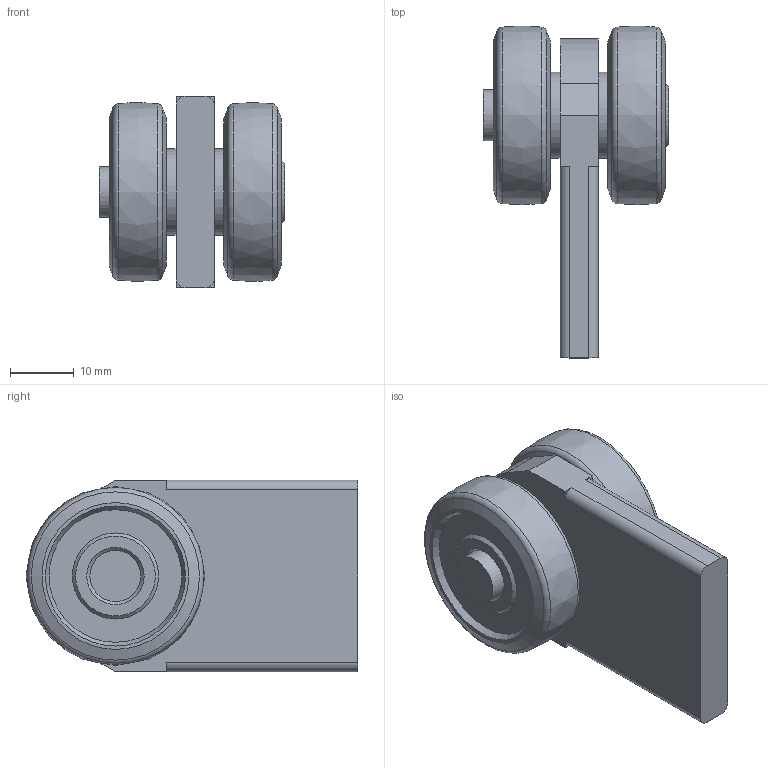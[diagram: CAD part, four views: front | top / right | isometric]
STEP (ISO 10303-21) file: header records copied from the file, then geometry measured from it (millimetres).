
FILE_DESCRIPTION(/* description */ ('Bolzen'),/* implementation_level */ '2;1');
FILE_NAME(/* name */ 'Q:\sge-ma\Produktmanagement-STB\STB\Workspace\stp\010336822.stp',/* time_stamp */ '2016-07-18T12:46:57+02:00',/* author */ ('avschreier'),/* organization */ (''),/* preprocessor_version */ 'ST-DEVELOPER v16.1',/* originating_system */ 'Autodesk Inventor 2016',/* authorisation */ '');
FILE_SCHEMA (('AUTOMOTIVE_DESIGN { 1 0 10303 214 3 1 1 }'));
Length unit declared in the file: millimetre
Products named in the file (5): 000304011; 000226092; 337000211; 000303235; 010336822
Assembly tree (6 placements, depth 2):
  010336822
    000304011
    000226092  x2
    337000211
    000303235  x2
Bounding box: 29 x 52 x 30 mm (x, y, z)
Volume: 18436.3 mm3; surface area: 9179.2 mm2
Topology: 6 solids, 6 shells, 68 faces, 132 edges, 85 vertices
Faces by surface type: plane 30, cone 17, cylinder 14, torus 5, bspline 2
Full cylindrical faces by diameter (mm): 8 x3, 8.1 x1, 8.5 x2, 10 x1, 13.5 x2
Entity records: 1277 total; most frequent: DIRECTION 228, CARTESIAN_POINT 220, ORIENTED_EDGE 150, AXIS2_PLACEMENT_3D 98, EDGE_LOOP 75, EDGE_CURVE 75, VERTEX_POINT 60, FACE_OUTER_BOUND 46
